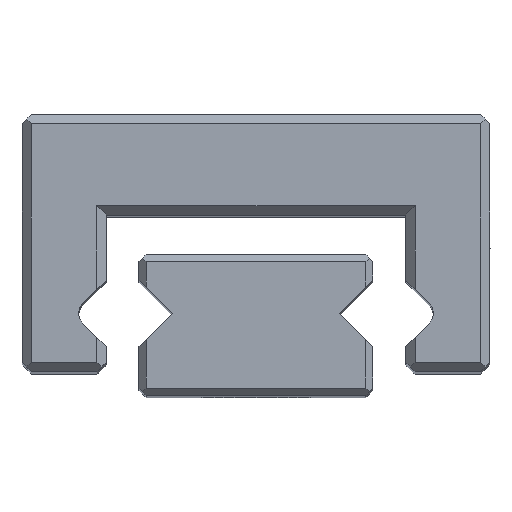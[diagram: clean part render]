
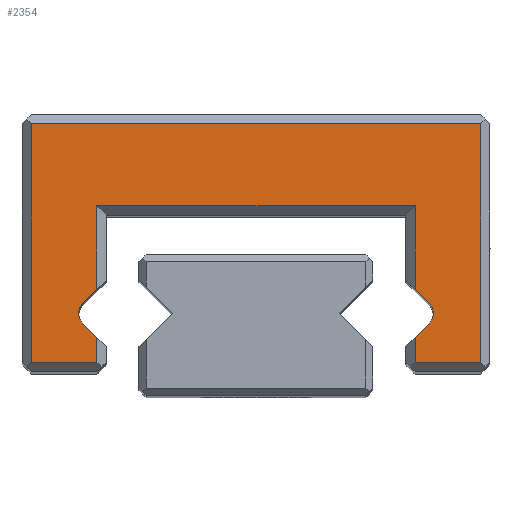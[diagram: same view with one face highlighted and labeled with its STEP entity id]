
A CAD part, top view. The second image highlights one B-rep face of the part: STEP entity #2354.
In plain terms, the highlighted planar face has unit normal (0, 0, 1).
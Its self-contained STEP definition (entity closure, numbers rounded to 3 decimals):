
#1088 = PLANE ( 'NONE',  #9472 ) ;
#1090 = CARTESIAN_POINT ( 'NONE',  ( -3.49, 1.25, 15. ) ) ;
#1094 = FACE_OUTER_BOUND ( 'NONE', #2479, .T. ) ;
#1096 = DIRECTION ( 'NONE',  ( 0., 0., 1. ) ) ;
#1097 = DIRECTION ( 'NONE',  ( 1., 0., 0. ) ) ;
#1329 = ORIENTED_EDGE ( 'NONE', *, *, #3653, .T. ) ;
#1344 = ORIENTED_EDGE ( 'NONE', *, *, #3625, .T. ) ;
#1346 = ORIENTED_EDGE ( 'NONE', *, *, #3580, .T. ) ;
#1349 = ORIENTED_EDGE ( 'NONE', *, *, #3589, .T. ) ;
#2354 = ADVANCED_FACE ( 'NONE', ( #1094 ), #1088, .T. ) ;
#2479 = EDGE_LOOP ( 'NONE', ( #10095, #10006, #1349, #9991, #11485, #11505, #11506, #1346, #10022, #1329, #10126, #10021, #10107, #10065, #11477, #11469, #1344 ) ) ;
#2611 = VERTEX_POINT ( 'NONE', #7007 ) ;
#2695 = VERTEX_POINT ( 'NONE', #7032 ) ;
#3062 = CARTESIAN_POINT ( 'NONE',  ( 3.4, 1.762, 15. ) ) ;
#3078 = CARTESIAN_POINT ( 'NONE',  ( 3.4, 3.55, 15. ) ) ;
#3080 = CARTESIAN_POINT ( 'NONE',  ( -3.4, 0.2, 15. ) ) ;
#3081 = CARTESIAN_POINT ( 'NONE',  ( -4.8, 0.2, 15. ) ) ;
#3083 = CARTESIAN_POINT ( 'NONE',  ( -4.8, 5.3, 15. ) ) ;
#3084 = CARTESIAN_POINT ( 'NONE',  ( 4.8, 5.3, 15. ) ) ;
#3086 = CARTESIAN_POINT ( 'NONE',  ( 4.8, 0.2, 15. ) ) ;
#3087 = CARTESIAN_POINT ( 'NONE',  ( -3.4, 3.55, 15. ) ) ;
#3092 = CARTESIAN_POINT ( 'NONE',  ( 3.4, 0.738, 15. ) ) ;
#3106 = CARTESIAN_POINT ( 'NONE',  ( 3.701, 1.037, 15. ) ) ;
#3116 = CARTESIAN_POINT ( 'NONE',  ( 3.4, 0.2, 15. ) ) ;
#3204 = CARTESIAN_POINT ( 'NONE',  ( -3.4, 0.738, 15. ) ) ;
#3206 = CARTESIAN_POINT ( 'NONE',  ( 3.701, 1.463, 15. ) ) ;
#3209 = CARTESIAN_POINT ( 'NONE',  ( -3.701, 1.037, 15. ) ) ;
#3214 = CARTESIAN_POINT ( 'NONE',  ( -3.4, 1.762, 15. ) ) ;
#3572 = EDGE_CURVE ( 'NONE', #5307, #5292, #5608, .T. ) ;
#3574 = EDGE_CURVE ( 'NONE', #5314, #5307, #5604, .T. ) ;
#3575 = EDGE_CURVE ( 'NONE', #10404, #5314, #5617, .T. ) ;
#3580 = EDGE_CURVE ( 'NONE', #5309, #10395, #5664, .T. ) ;
#3582 = EDGE_CURVE ( 'NONE', #5310, #5309, #5650, .T. ) ;
#3585 = EDGE_CURVE ( 'NONE', #5311, #5310, #5679, .T. ) ;
#3586 = EDGE_CURVE ( 'NONE', #5312, #5311, #5682, .T. ) ;
#3588 = EDGE_CURVE ( 'NONE', #5313, #5312, #5688, .T. ) ;
#3589 = EDGE_CURVE ( 'NONE', #5340, #5313, #5691, .T. ) ;
#3591 = EDGE_CURVE ( 'NONE', #5319, #5340, #5713, .T. ) ;
#3618 = EDGE_CURVE ( 'NONE', #5331, #5319, #5810, .T. ) ;
#3625 = EDGE_CURVE ( 'NONE', #10397, #5331, #9676, .T. ) ;
#3630 = EDGE_CURVE ( 'NONE', #5292, #10397, #5855, .T. ) ;
#3643 = EDGE_CURVE ( 'NONE', #2611, #10404, #5901, .T. ) ;
#3653 = EDGE_CURVE ( 'NONE', #10399, #2695, #9699, .T. ) ;
#3655 = EDGE_CURVE ( 'NONE', #10395, #10399, #5932, .T. ) ;
#3666 = EDGE_CURVE ( 'NONE', #2695, #2611, #9718, .T. ) ;
#5292 = VERTEX_POINT ( 'NONE', #3062 ) ;
#5307 = VERTEX_POINT ( 'NONE', #3078 ) ;
#5309 = VERTEX_POINT ( 'NONE', #3080 ) ;
#5310 = VERTEX_POINT ( 'NONE', #3081 ) ;
#5311 = VERTEX_POINT ( 'NONE', #3083 ) ;
#5312 = VERTEX_POINT ( 'NONE', #3084 ) ;
#5313 = VERTEX_POINT ( 'NONE', #3086 ) ;
#5314 = VERTEX_POINT ( 'NONE', #3087 ) ;
#5319 = VERTEX_POINT ( 'NONE', #3092 ) ;
#5331 = VERTEX_POINT ( 'NONE', #3106 ) ;
#5340 = VERTEX_POINT ( 'NONE', #3116 ) ;
#5604 = LINE ( 'NONE', #5615, #9628 ) ;
#5608 = LINE ( 'NONE', #5610, #9627 ) ;
#5610 = CARTESIAN_POINT ( 'NONE',  ( 3.4, 1.96, 15. ) ) ;
#5611 = DIRECTION ( 'NONE',  ( 0., -1., 0. ) ) ;
#5615 = CARTESIAN_POINT ( 'NONE',  ( 3.2, 3.55, 15. ) ) ;
#5616 = DIRECTION ( 'NONE',  ( 1., 0., 0. ) ) ;
#5617 = LINE ( 'NONE', #5618, #9630 ) ;
#5618 = CARTESIAN_POINT ( 'NONE',  ( -3.4, 3.35, 15. ) ) ;
#5619 = DIRECTION ( 'NONE',  ( 0., 1., 0. ) ) ;
#5650 = LINE ( 'NONE', #5671, #9629 ) ;
#5664 = LINE ( 'NONE', #5665, #9633 ) ;
#5665 = CARTESIAN_POINT ( 'NONE',  ( -3.4, 0.54, 15. ) ) ;
#5666 = DIRECTION ( 'NONE',  ( 0., 1., 0. ) ) ;
#5671 = CARTESIAN_POINT ( 'NONE',  ( -3.4, 0.2, 15. ) ) ;
#5672 = DIRECTION ( 'NONE',  ( 1., 0., 0. ) ) ;
#5679 = LINE ( 'NONE', #5680, #9638 ) ;
#5680 = CARTESIAN_POINT ( 'NONE',  ( -4.8, 0.2, 15. ) ) ;
#5681 = DIRECTION ( 'NONE',  ( 0., -1., 0. ) ) ;
#5682 = LINE ( 'NONE', #5683, #9639 ) ;
#5683 = CARTESIAN_POINT ( 'NONE',  ( -4.8, 5.3, 15. ) ) ;
#5684 = DIRECTION ( 'NONE',  ( -1., 0., 0. ) ) ;
#5688 = LINE ( 'NONE', #5689, #9641 ) ;
#5689 = CARTESIAN_POINT ( 'NONE',  ( 4.8, 5.3, 15. ) ) ;
#5690 = DIRECTION ( 'NONE',  ( 0., 1., 0. ) ) ;
#5691 = LINE ( 'NONE', #5692, #9642 ) ;
#5692 = CARTESIAN_POINT ( 'NONE',  ( 4.8, 0.2, 15. ) ) ;
#5693 = DIRECTION ( 'NONE',  ( 1., 0., 0. ) ) ;
#5713 = LINE ( 'NONE', #5714, #9644 ) ;
#5714 = CARTESIAN_POINT ( 'NONE',  ( 3.4, 0.2, 15. ) ) ;
#5715 = DIRECTION ( 'NONE',  ( 0., -1., 0. ) ) ;
#5810 = LINE ( 'NONE', #5811, #9670 ) ;
#5811 = CARTESIAN_POINT ( 'NONE',  ( 3.2, 0.54, 15. ) ) ;
#5812 = DIRECTION ( 'NONE',  ( -0.71, -0.704, 0. ) ) ;
#5833 = CARTESIAN_POINT ( 'NONE',  ( 3.49, 1.25, 15. ) ) ;
#5834 = DIRECTION ( 'NONE',  ( 0., 0., -1. ) ) ;
#5835 = DIRECTION ( 'NONE',  ( -1., 0., 0. ) ) ;
#5855 = LINE ( 'NONE', #5863, #9679 ) ;
#5863 = CARTESIAN_POINT ( 'NONE',  ( 3.701, 1.463, 15. ) ) ;
#5864 = DIRECTION ( 'NONE',  ( 0.71, -0.704, 0. ) ) ;
#5901 = LINE ( 'NONE', #5902, #9696 ) ;
#5902 = CARTESIAN_POINT ( 'NONE',  ( -3.701, 1.463, 15. ) ) ;
#5903 = DIRECTION ( 'NONE',  ( 0.71, 0.704, 0. ) ) ;
#5932 = LINE ( 'NONE', #5937, #9707 ) ;
#5933 = CARTESIAN_POINT ( 'NONE',  ( -3.49, 1.25, 15. ) ) ;
#5934 = DIRECTION ( 'NONE',  ( 0., 0., -1. ) ) ;
#5935 = DIRECTION ( 'NONE',  ( 1., 0., 0. ) ) ;
#5937 = CARTESIAN_POINT ( 'NONE',  ( -3.2, 0.54, 15. ) ) ;
#5938 = DIRECTION ( 'NONE',  ( -0.71, 0.704, 0. ) ) ;
#5972 = CARTESIAN_POINT ( 'NONE',  ( -3.49, 1.25, 15. ) ) ;
#5973 = DIRECTION ( 'NONE',  ( 0., 0., -1. ) ) ;
#5974 = DIRECTION ( 'NONE',  ( 1., 0., 0. ) ) ;
#7007 = CARTESIAN_POINT ( 'NONE',  ( -3.701, 1.463, 15. ) ) ;
#7032 = CARTESIAN_POINT ( 'NONE',  ( -3.79, 1.25, 15. ) ) ;
#9472 = AXIS2_PLACEMENT_3D ( 'NONE', #1090, #1096, #1097 ) ;
#9627 = VECTOR ( 'NONE', #5611, 1000. ) ;
#9628 = VECTOR ( 'NONE', #5616, 1000. ) ;
#9629 = VECTOR ( 'NONE', #5672, 1000. ) ;
#9630 = VECTOR ( 'NONE', #5619, 1000. ) ;
#9633 = VECTOR ( 'NONE', #5666, 1000. ) ;
#9638 = VECTOR ( 'NONE', #5681, 1000. ) ;
#9639 = VECTOR ( 'NONE', #5684, 1000. ) ;
#9641 = VECTOR ( 'NONE', #5690, 1000. ) ;
#9642 = VECTOR ( 'NONE', #5693, 1000. ) ;
#9644 = VECTOR ( 'NONE', #5715, 1000. ) ;
#9670 = VECTOR ( 'NONE', #5812, 1000. ) ;
#9676 = CIRCLE ( 'NONE', #9678, 0.3 ) ;
#9678 = AXIS2_PLACEMENT_3D ( 'NONE', #5833, #5834, #5835 ) ;
#9679 = VECTOR ( 'NONE', #5864, 1000. ) ;
#9696 = VECTOR ( 'NONE', #5903, 1000. ) ;
#9699 = CIRCLE ( 'NONE', #9710, 0.3 ) ;
#9707 = VECTOR ( 'NONE', #5938, 1000. ) ;
#9710 = AXIS2_PLACEMENT_3D ( 'NONE', #5933, #5934, #5935 ) ;
#9718 = CIRCLE ( 'NONE', #9724, 0.3 ) ;
#9724 = AXIS2_PLACEMENT_3D ( 'NONE', #5972, #5973, #5974 ) ;
#9991 = ORIENTED_EDGE ( 'NONE', *, *, #3588, .T. ) ;
#10006 = ORIENTED_EDGE ( 'NONE', *, *, #3591, .T. ) ;
#10021 = ORIENTED_EDGE ( 'NONE', *, *, #3643, .T. ) ;
#10022 = ORIENTED_EDGE ( 'NONE', *, *, #3655, .T. ) ;
#10065 = ORIENTED_EDGE ( 'NONE', *, *, #3574, .T. ) ;
#10095 = ORIENTED_EDGE ( 'NONE', *, *, #3618, .T. ) ;
#10107 = ORIENTED_EDGE ( 'NONE', *, *, #3575, .T. ) ;
#10126 = ORIENTED_EDGE ( 'NONE', *, *, #3666, .T. ) ;
#10395 = VERTEX_POINT ( 'NONE', #3204 ) ;
#10397 = VERTEX_POINT ( 'NONE', #3206 ) ;
#10399 = VERTEX_POINT ( 'NONE', #3209 ) ;
#10404 = VERTEX_POINT ( 'NONE', #3214 ) ;
#11469 = ORIENTED_EDGE ( 'NONE', *, *, #3630, .T. ) ;
#11477 = ORIENTED_EDGE ( 'NONE', *, *, #3572, .T. ) ;
#11485 = ORIENTED_EDGE ( 'NONE', *, *, #3586, .T. ) ;
#11505 = ORIENTED_EDGE ( 'NONE', *, *, #3585, .T. ) ;
#11506 = ORIENTED_EDGE ( 'NONE', *, *, #3582, .T. ) ;
